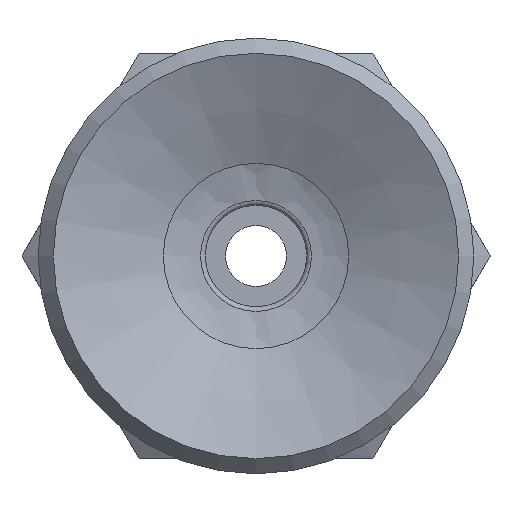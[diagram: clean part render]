
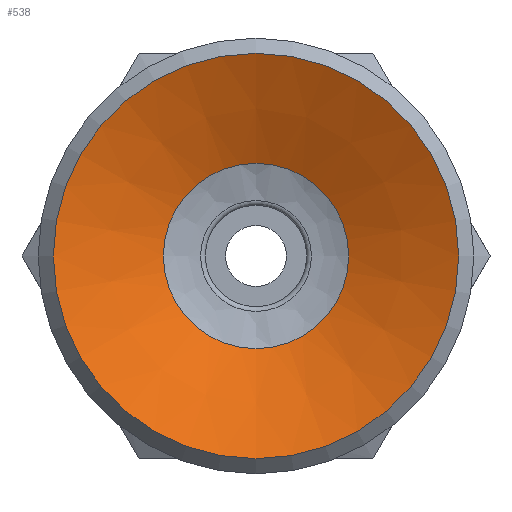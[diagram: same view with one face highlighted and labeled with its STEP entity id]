
A CAD part, front view. The second image highlights one B-rep face of the part: STEP entity #538.
In plain terms, the highlighted conical face has half-angle 65 degrees and reference radius 1.427 mm.
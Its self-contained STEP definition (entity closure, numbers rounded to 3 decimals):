
#538=ADVANCED_FACE('',(#769,#770),#771,.F.);
#769=FACE_BOUND('',#1051,.T.);
#770=FACE_OUTER_BOUND('',#1052,.T.);
#771=CONICAL_SURFACE('',#1053,1.427,1.134);
#1051=EDGE_LOOP('',(#1709));
#1052=EDGE_LOOP('',(#1710));
#1053=AXIS2_PLACEMENT_3D('',#1711,#1712,#1713);
#1709=ORIENTED_EDGE('',*,*,#2023,.T.);
#1710=ORIENTED_EDGE('',*,*,#2016,.T.);
#1711=CARTESIAN_POINT('',(0.0,7.096,0.));
#1712=DIRECTION('',(-0.0,-1.0,0.));
#1713=DIRECTION('',(0.0,0.,-1.0));
#2016=EDGE_CURVE('',#2297,#2297,#2298,.T.);
#2023=EDGE_CURVE('',#2311,#2311,#2312,.T.);
#2297=VERTEX_POINT('',#2917);
#2298=CIRCLE('',#2918,4.0);
#2311=VERTEX_POINT('',#2931);
#2312=CIRCLE('',#2932,1.828);
#2917=CARTESIAN_POINT('',(0.0,5.896,-4.0));
#2918=AXIS2_PLACEMENT_3D('',#3227,#3228,#3229);
#2931=CARTESIAN_POINT('',(0.0,6.909,-1.828));
#2932=AXIS2_PLACEMENT_3D('',#3248,#3249,#3250);
#3227=CARTESIAN_POINT('',(0.0,5.896,0.0));
#3228=DIRECTION('',(0.0,-1.0,0.));
#3229=DIRECTION('',(0.0,0.,-1.0));
#3248=CARTESIAN_POINT('',(0.0,6.909,0.0));
#3249=DIRECTION('',(0.0,1.0,0.));
#3250=DIRECTION('',(0.0,0.,-1.0));
